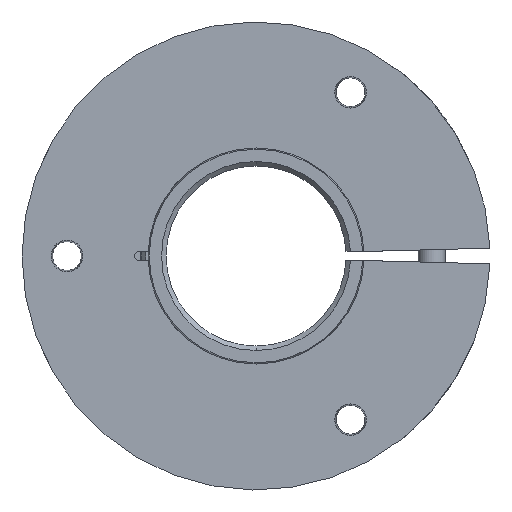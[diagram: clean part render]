
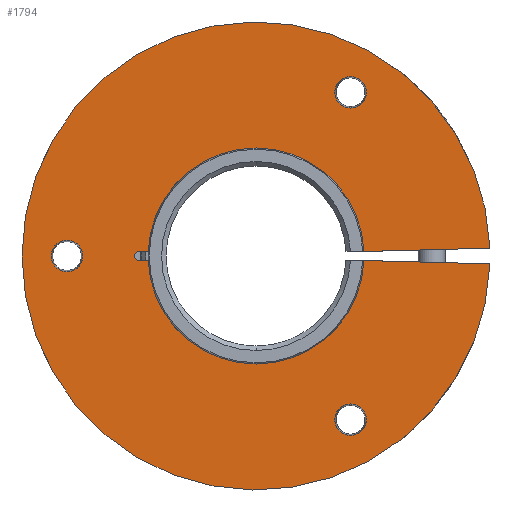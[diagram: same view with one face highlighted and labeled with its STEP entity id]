
A CAD part, front view. The second image highlights one B-rep face of the part: STEP entity #1794.
In plain terms, the highlighted planar face has unit normal (0, -1, 0).
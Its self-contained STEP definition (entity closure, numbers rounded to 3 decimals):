
#14 = DIRECTION ( 'NONE',  ( 0., 1., 0. ) ) ;
#27 = CARTESIAN_POINT ( 'NONE',  ( 0., 0., 0. ) ) ;
#64 = PLANE ( 'NONE',  #2438 ) ;
#69 = EDGE_CURVE ( 'NONE', #349, #1643, #1878, .T. ) ;
#98 = EDGE_CURVE ( 'NONE', #1643, #349, #1888, .T. ) ;
#106 = EDGE_CURVE ( 'NONE', #677, #2661, #1747, .T. ) ;
#125 = FACE_BOUND ( 'NONE', #2670, .T. ) ;
#134 = ORIENTED_EDGE ( 'NONE', *, *, #1738, .T. ) ;
#139 = DIRECTION ( 'NONE',  ( 0., -1., 0. ) ) ;
#152 = FACE_BOUND ( 'NONE', #2636, .T. ) ;
#237 = CIRCLE ( 'NONE', #2678, 0.5 ) ;
#261 = LINE ( 'NONE', #2019, #2250 ) ;
#331 = CIRCLE ( 'NONE', #1831, 12. ) ;
#349 = VERTEX_POINT ( 'NONE', #1149 ) ;
#351 = VERTEX_POINT ( 'NONE', #2722 ) ;
#367 = AXIS2_PLACEMENT_3D ( 'NONE', #3045, #3040, #3000 ) ;
#383 = CARTESIAN_POINT ( 'NONE',  ( -13., 0., -0.5 ) ) ;
#416 = EDGE_CURVE ( 'NONE', #1728, #2284, #521, .T. ) ;
#418 = VERTEX_POINT ( 'NONE', #1718 ) ;
#419 = AXIS2_PLACEMENT_3D ( 'NONE', #1684, #139, #1970 ) ;
#422 = ORIENTED_EDGE ( 'NONE', *, *, #876, .T. ) ;
#444 = ORIENTED_EDGE ( 'NONE', *, *, #69, .T. ) ;
#470 = VERTEX_POINT ( 'NONE', #1059 ) ;
#472 = ORIENTED_EDGE ( 'NONE', *, *, #2145, .T. ) ;
#521 = CIRCLE ( 'NONE', #3031, 1.748 ) ;
#534 = EDGE_CURVE ( 'NONE', #655, #418, #2294, .T. ) ;
#570 = CARTESIAN_POINT ( 'NONE',  ( 0., 0., 0. ) ) ;
#576 = CARTESIAN_POINT ( 'NONE',  ( 12., 0., 0. ) ) ;
#581 = EDGE_CURVE ( 'NONE', #1387, #418, #2223, .T. ) ;
#650 = EDGE_CURVE ( 'NONE', #2787, #470, #1876, .T. ) ;
#655 = VERTEX_POINT ( 'NONE', #2067 ) ;
#677 = VERTEX_POINT ( 'NONE', #1627 ) ;
#693 = EDGE_CURVE ( 'NONE', #2661, #677, #1666, .T. ) ;
#719 = AXIS2_PLACEMENT_3D ( 'NONE', #2668, #2659, #2634 ) ;
#808 = DIRECTION ( 'NONE',  ( -1., 0., 0. ) ) ;
#876 = EDGE_CURVE ( 'NONE', #2284, #1728, #1207, .T. ) ;
#877 = CARTESIAN_POINT ( 'NONE',  ( 25.985, 0., -0.871 ) ) ;
#940 = ORIENTED_EDGE ( 'NONE', *, *, #106, .T. ) ;
#1001 = CARTESIAN_POINT ( 'NONE',  ( 10.5, 0., -16.438 ) ) ;
#1026 = ORIENTED_EDGE ( 'NONE', *, *, #2097, .T. ) ;
#1059 = CARTESIAN_POINT ( 'NONE',  ( -13., 0., 0.5 ) ) ;
#1068 = DIRECTION ( 'NONE',  ( 0., -1., 0. ) ) ;
#1086 = AXIS2_PLACEMENT_3D ( 'NONE', #27, #14, #2978 ) ;
#1149 = CARTESIAN_POINT ( 'NONE',  ( 10.5, 0., 16.438 ) ) ;
#1178 = VERTEX_POINT ( 'NONE', #2341 ) ;
#1207 = CIRCLE ( 'NONE', #2245, 1.748 ) ;
#1222 = AXIS2_PLACEMENT_3D ( 'NONE', #2452, #2443, #2437 ) ;
#1288 = DIRECTION ( 'NONE',  ( 0., 0., -1. ) ) ;
#1312 = DIRECTION ( 'NONE',  ( 0., 1., 0. ) ) ;
#1336 = CARTESIAN_POINT ( 'NONE',  ( -21., 0., 0. ) ) ;
#1375 = ORIENTED_EDGE ( 'NONE', *, *, #534, .T. ) ;
#1387 = VERTEX_POINT ( 'NONE', #383 ) ;
#1467 = DIRECTION ( 'NONE',  ( 0., 1., 0. ) ) ;
#1483 = DIRECTION ( 'NONE',  ( 0., 1., 0. ) ) ;
#1546 = DIRECTION ( 'NONE',  ( 0., 0., -1. ) ) ;
#1561 = DIRECTION ( 'NONE',  ( 0., 1., 0. ) ) ;
#1567 = CARTESIAN_POINT ( 'NONE',  ( 10.5, 0., -18.187 ) ) ;
#1608 = ORIENTED_EDGE ( 'NONE', *, *, #98, .T. ) ;
#1627 = CARTESIAN_POINT ( 'NONE',  ( -21., 0., 1.748 ) ) ;
#1643 = VERTEX_POINT ( 'NONE', #2091 ) ;
#1666 = CIRCLE ( 'NONE', #2706, 1.748 ) ;
#1684 = CARTESIAN_POINT ( 'NONE',  ( 0., 0., 0. ) ) ;
#1697 = DIRECTION ( 'NONE',  ( 1., 0., 0. ) ) ;
#1718 = CARTESIAN_POINT ( 'NONE',  ( -11.99, 0., -0.5 ) ) ;
#1728 = VERTEX_POINT ( 'NONE', #2729 ) ;
#1738 = EDGE_CURVE ( 'NONE', #2787, #1787, #331, .T. ) ;
#1747 = CIRCLE ( 'NONE', #1222, 1.748 ) ;
#1787 = VERTEX_POINT ( 'NONE', #2736 ) ;
#1794 = ADVANCED_FACE ( 'NONE', ( #2939, #152, #2491, #125 ), #64, .T. ) ;
#1827 = VECTOR ( 'NONE', #1988, 1000. ) ;
#1831 = AXIS2_PLACEMENT_3D ( 'NONE', #570, #2329, #808 ) ;
#1876 = LINE ( 'NONE', #1997, #1827 ) ;
#1878 = CIRCLE ( 'NONE', #367, 1.748 ) ;
#1883 = CARTESIAN_POINT ( 'NONE',  ( 10.5, 0., -18.187 ) ) ;
#1888 = CIRCLE ( 'NONE', #719, 1.748 ) ;
#1914 = CARTESIAN_POINT ( 'NONE',  ( 0., 0., -0.5 ) ) ;
#1970 = DIRECTION ( 'NONE',  ( 1., 0., 0. ) ) ;
#1988 = DIRECTION ( 'NONE',  ( -1., 0., 0. ) ) ;
#1997 = CARTESIAN_POINT ( 'NONE',  ( -13., 0., 0.5 ) ) ;
#2003 = ORIENTED_EDGE ( 'NONE', *, *, #650, .F. ) ;
#2019 = CARTESIAN_POINT ( 'NONE',  ( 11.989, 0., 0.505 ) ) ;
#2067 = CARTESIAN_POINT ( 'NONE',  ( 11.989, 0., -0.505 ) ) ;
#2091 = CARTESIAN_POINT ( 'NONE',  ( 10.5, 0., 19.935 ) ) ;
#2097 = EDGE_CURVE ( 'NONE', #1787, #1178, #261, .T. ) ;
#2145 = EDGE_CURVE ( 'NONE', #1387, #470, #237, .T. ) ;
#2200 = VECTOR ( 'NONE', #1697, 1000. ) ;
#2207 = ORIENTED_EDGE ( 'NONE', *, *, #2572, .T. ) ;
#2221 = ORIENTED_EDGE ( 'NONE', *, *, #693, .T. ) ;
#2223 = LINE ( 'NONE', #1914, #2200 ) ;
#2245 = AXIS2_PLACEMENT_3D ( 'NONE', #1883, #1467, #2671 ) ;
#2250 = VECTOR ( 'NONE', #3047, 1000. ) ;
#2284 = VERTEX_POINT ( 'NONE', #1001 ) ;
#2294 = CIRCLE ( 'NONE', #1086, 12. ) ;
#2329 = DIRECTION ( 'NONE',  ( 0., 1., 0. ) ) ;
#2341 = CARTESIAN_POINT ( 'NONE',  ( 25.985, 0., 0.871 ) ) ;
#2372 = ORIENTED_EDGE ( 'NONE', *, *, #2483, .T. ) ;
#2437 = DIRECTION ( 'NONE',  ( 0., 0., -1. ) ) ;
#2438 = AXIS2_PLACEMENT_3D ( 'NONE', #576, #1068, #2756 ) ;
#2443 = DIRECTION ( 'NONE',  ( 0., 1., 0. ) ) ;
#2452 = CARTESIAN_POINT ( 'NONE',  ( -21., 0., 0. ) ) ;
#2483 = EDGE_CURVE ( 'NONE', #351, #655, #2730, .T. ) ;
#2491 = FACE_OUTER_BOUND ( 'NONE', #2530, .T. ) ;
#2523 = CIRCLE ( 'NONE', #419, 26. ) ;
#2530 = EDGE_LOOP ( 'NONE', ( #2207, #2372, #1375, #2654, #472, #2003, #134, #1026 ) ) ;
#2572 = EDGE_CURVE ( 'NONE', #1178, #351, #2523, .T. ) ;
#2583 = DIRECTION ( 'NONE',  ( -1., 0., 0.026 ) ) ;
#2621 = EDGE_LOOP ( 'NONE', ( #444, #1608 ) ) ;
#2634 = DIRECTION ( 'NONE',  ( 0., 0., -1. ) ) ;
#2636 = EDGE_LOOP ( 'NONE', ( #2221, #940 ) ) ;
#2640 = CARTESIAN_POINT ( 'NONE',  ( -21., 0., -1.748 ) ) ;
#2654 = ORIENTED_EDGE ( 'NONE', *, *, #581, .F. ) ;
#2659 = DIRECTION ( 'NONE',  ( 0., 1., 0. ) ) ;
#2661 = VERTEX_POINT ( 'NONE', #2640 ) ;
#2668 = CARTESIAN_POINT ( 'NONE',  ( 10.5, 0., 18.187 ) ) ;
#2670 = EDGE_LOOP ( 'NONE', ( #2773, #422 ) ) ;
#2671 = DIRECTION ( 'NONE',  ( 0., 0., -1. ) ) ;
#2678 = AXIS2_PLACEMENT_3D ( 'NONE', #2878, #1483, #3062 ) ;
#2706 = AXIS2_PLACEMENT_3D ( 'NONE', #1336, #1312, #1288 ) ;
#2722 = CARTESIAN_POINT ( 'NONE',  ( 25.985, 0., -0.871 ) ) ;
#2729 = CARTESIAN_POINT ( 'NONE',  ( 10.5, 0., -19.935 ) ) ;
#2730 = LINE ( 'NONE', #877, #2936 ) ;
#2736 = CARTESIAN_POINT ( 'NONE',  ( 11.989, 0., 0.505 ) ) ;
#2756 = DIRECTION ( 'NONE',  ( 0., 0., -1. ) ) ;
#2773 = ORIENTED_EDGE ( 'NONE', *, *, #416, .T. ) ;
#2787 = VERTEX_POINT ( 'NONE', #2894 ) ;
#2878 = CARTESIAN_POINT ( 'NONE',  ( -13., 0., 0. ) ) ;
#2894 = CARTESIAN_POINT ( 'NONE',  ( -11.99, 0., 0.5 ) ) ;
#2936 = VECTOR ( 'NONE', #2583, 1000. ) ;
#2939 = FACE_BOUND ( 'NONE', #2621, .T. ) ;
#2978 = DIRECTION ( 'NONE',  ( -1., 0., 0. ) ) ;
#3000 = DIRECTION ( 'NONE',  ( 0., 0., -1. ) ) ;
#3031 = AXIS2_PLACEMENT_3D ( 'NONE', #1567, #1561, #1546 ) ;
#3040 = DIRECTION ( 'NONE',  ( 0., 1., 0. ) ) ;
#3045 = CARTESIAN_POINT ( 'NONE',  ( 10.5, 0., 18.187 ) ) ;
#3047 = DIRECTION ( 'NONE',  ( 1., 0., 0.026 ) ) ;
#3062 = DIRECTION ( 'NONE',  ( 0., 0., 1. ) ) ;
